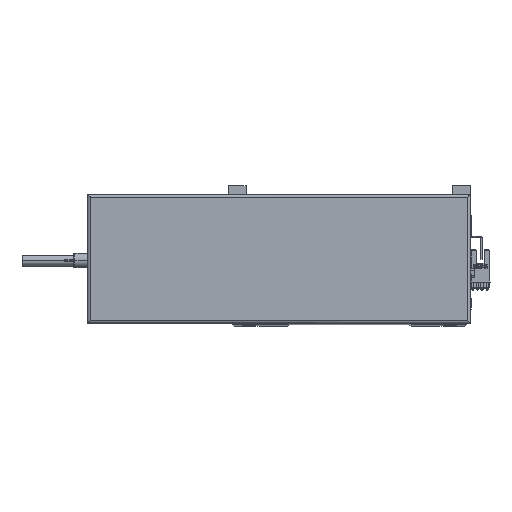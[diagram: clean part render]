
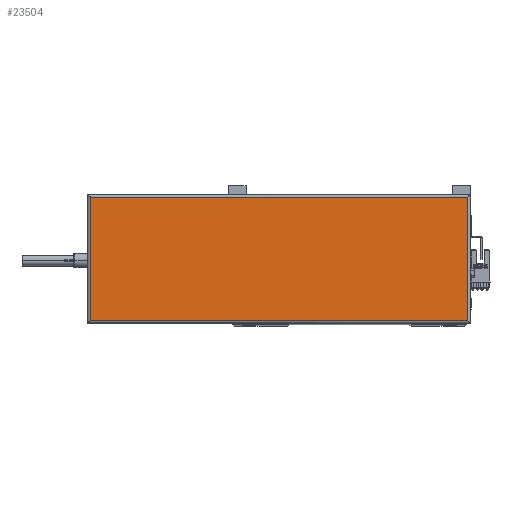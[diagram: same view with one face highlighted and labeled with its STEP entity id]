
A CAD part, top view. The second image highlights one B-rep face of the part: STEP entity #23504.
In plain terms, the highlighted planar face has unit normal (0, 0, 1).
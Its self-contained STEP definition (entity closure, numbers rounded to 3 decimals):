
#1119 = CARTESIAN_POINT ( 'NONE',  ( 267., 2., 44.8 ) ) ;
#1536 = AXIS2_PLACEMENT_3D ( 'NONE', #44204, #25207, #17742 ) ;
#3819 = VERTEX_POINT ( 'NONE', #43553 ) ;
#4248 = EDGE_CURVE ( 'NONE', #10227, #10096, #45044, .T. ) ;
#4628 = DIRECTION ( 'NONE',  ( -1., 0., 0. ) ) ;
#5542 = FACE_OUTER_BOUND ( 'NONE', #21330, .T. ) ;
#6385 = VERTEX_POINT ( 'NONE', #24513 ) ;
#7514 = ORIENTED_EDGE ( 'NONE', *, *, #4248, .T. ) ;
#8095 = LINE ( 'NONE', #1119, #46900 ) ;
#9130 = CARTESIAN_POINT ( 'NONE',  ( 265., 88., 44.8 ) ) ;
#9791 = PLANE ( 'NONE',  #1536 ) ;
#10096 = VERTEX_POINT ( 'NONE', #31841 ) ;
#10227 = VERTEX_POINT ( 'NONE', #9130 ) ;
#12355 = EDGE_CURVE ( 'NONE', #3819, #10227, #30498, .T. ) ;
#12871 = ORIENTED_EDGE ( 'NONE', *, *, #15653, .T. ) ;
#15302 = VECTOR ( 'NONE', #4628, 1000. ) ;
#15653 = EDGE_CURVE ( 'NONE', #10096, #6385, #29635, .T. ) ;
#17742 = DIRECTION ( 'NONE',  ( 1., 0., 0. ) ) ;
#19297 = VECTOR ( 'NONE', #28499, 1000. ) ;
#20057 = EDGE_CURVE ( 'NONE', #6385, #3819, #8095, .T. ) ;
#20489 = CARTESIAN_POINT ( 'NONE',  ( 2., 0., 44.8 ) ) ;
#21330 = EDGE_LOOP ( 'NONE', ( #49043, #7514, #12871, #47521 ) ) ;
#23504 = ADVANCED_FACE ( 'NONE', ( #5542 ), #9791, .T. ) ;
#24513 = CARTESIAN_POINT ( 'NONE',  ( 2., 2., 44.8 ) ) ;
#25207 = DIRECTION ( 'NONE',  ( 0., 0., 1. ) ) ;
#28499 = DIRECTION ( 'NONE',  ( 0., -1., 0. ) ) ;
#28913 = DIRECTION ( 'NONE',  ( 0., 1., 0. ) ) ;
#29635 = LINE ( 'NONE', #20489, #19297 ) ;
#30498 = LINE ( 'NONE', #32638, #43838 ) ;
#31841 = CARTESIAN_POINT ( 'NONE',  ( 2., 88., 44.8 ) ) ;
#32083 = CARTESIAN_POINT ( 'NONE',  ( 0., 88., 44.8 ) ) ;
#32638 = CARTESIAN_POINT ( 'NONE',  ( 265., 90., 44.8 ) ) ;
#43553 = CARTESIAN_POINT ( 'NONE',  ( 265., 2., 44.8 ) ) ;
#43838 = VECTOR ( 'NONE', #28913, 1000. ) ;
#44204 = CARTESIAN_POINT ( 'NONE',  ( 133.5, 45., 44.8 ) ) ;
#45044 = LINE ( 'NONE', #32083, #15302 ) ;
#46900 = VECTOR ( 'NONE', #47951, 1000. ) ;
#47521 = ORIENTED_EDGE ( 'NONE', *, *, #20057, .T. ) ;
#47951 = DIRECTION ( 'NONE',  ( 1., 0., 0. ) ) ;
#49043 = ORIENTED_EDGE ( 'NONE', *, *, #12355, .T. ) ;
